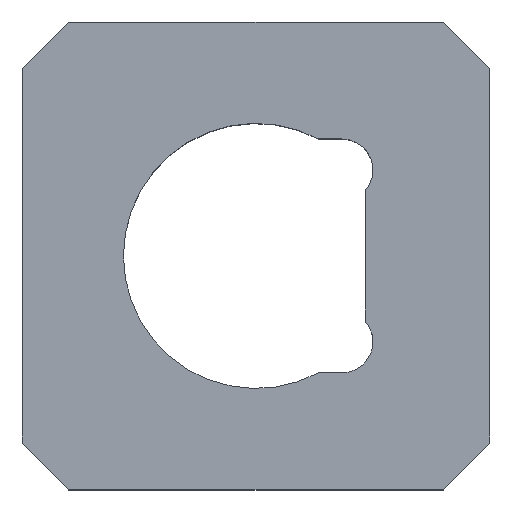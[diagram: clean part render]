
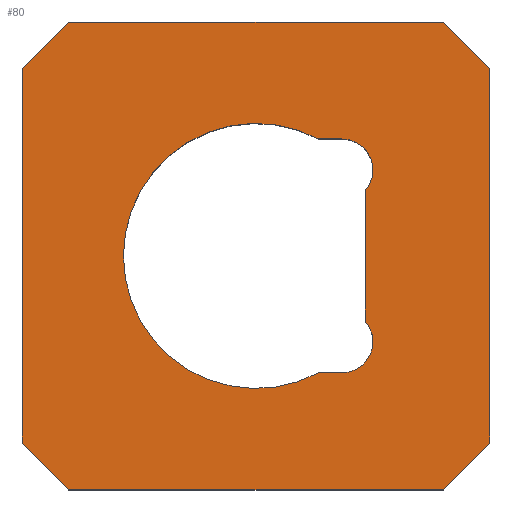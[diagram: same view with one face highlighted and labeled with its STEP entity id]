
A CAD part, top view. The second image highlights one B-rep face of the part: STEP entity #80.
In plain terms, the highlighted planar face has unit normal (0, 0, 1).
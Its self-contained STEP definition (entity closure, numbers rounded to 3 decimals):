
#80=ADVANCED_FACE('',(#332,#334),#336,.T.);
#332=FACE_BOUND('',#333,.T.);
#333=EDGE_LOOP('',(#543,#544,#545,#546,#547,#548,#549,#550));
#334=FACE_BOUND('',#335,.T.);
#335=EDGE_LOOP('',(#551,#552,#553,#554,#555,#556));
#336=PLANE('',#337);
#337=AXIS2_PLACEMENT_3D('',#338,#339,#340);
#338=CARTESIAN_POINT('',(0.,0.,11.));
#339=DIRECTION('',(0.,0.,1.));
#340=DIRECTION('',(-1.,0.,0.));
#543=ORIENTED_EDGE('',*,*,#667,.F.);
#544=ORIENTED_EDGE('',*,*,#668,.T.);
#545=ORIENTED_EDGE('',*,*,#669,.F.);
#546=ORIENTED_EDGE('',*,*,#670,.T.);
#547=ORIENTED_EDGE('',*,*,#671,.F.);
#548=ORIENTED_EDGE('',*,*,#658,.T.);
#549=ORIENTED_EDGE('',*,*,#666,.F.);
#550=ORIENTED_EDGE('',*,*,#672,.T.);
#551=ORIENTED_EDGE('',*,*,#673,.T.);
#552=ORIENTED_EDGE('',*,*,#674,.T.);
#553=ORIENTED_EDGE('',*,*,#675,.T.);
#554=ORIENTED_EDGE('',*,*,#676,.T.);
#555=ORIENTED_EDGE('',*,*,#677,.T.);
#556=ORIENTED_EDGE('',*,*,#678,.T.);
#658=EDGE_CURVE('',#723,#721,#724,.T.);
#666=EDGE_CURVE('',#736,#721,#738,.F.);
#667=EDGE_CURVE('',#739,#740,#741,.F.);
#668=EDGE_CURVE('',#739,#742,#743,.T.);
#669=EDGE_CURVE('',#744,#742,#745,.F.);
#670=EDGE_CURVE('',#744,#746,#747,.T.);
#671=EDGE_CURVE('',#723,#746,#748,.F.);
#672=EDGE_CURVE('',#736,#740,#749,.T.);
#673=EDGE_CURVE('',#750,#751,#752,.F.);
#674=EDGE_CURVE('',#751,#753,#754,.F.);
#675=EDGE_CURVE('',#753,#755,#756,.F.);
#676=EDGE_CURVE('',#755,#757,#758,.F.);
#677=EDGE_CURVE('',#757,#759,#760,.F.);
#678=EDGE_CURVE('',#759,#750,#761,.F.);
#721=VERTEX_POINT('',#830);
#723=VERTEX_POINT('',#834);
#724=LINE('',#835,#836);
#736=VERTEX_POINT('',#864);
#738=LINE('',#868,#869);
#739=VERTEX_POINT('',#871);
#740=VERTEX_POINT('',#872);
#741=LINE('',#873,#874);
#742=VERTEX_POINT('',#876);
#743=LINE('',#877,#878);
#744=VERTEX_POINT('',#880);
#745=LINE('',#881,#882);
#746=VERTEX_POINT('',#884);
#747=LINE('',#885,#886);
#748=LINE('',#888,#889);
#749=LINE('',#891,#892);
#750=VERTEX_POINT('',#894);
#751=VERTEX_POINT('',#895);
#752=CIRCLE('',#896,2.);
#753=VERTEX_POINT('',#900);
#754=LINE('',#901,#902);
#755=VERTEX_POINT('',#904);
#756=CIRCLE('',#905,8.5);
#757=VERTEX_POINT('',#909);
#758=LINE('',#910,#911);
#759=VERTEX_POINT('',#913);
#760=CIRCLE('',#914,2.);
#761=LINE('',#918,#919);
#830=CARTESIAN_POINT('',(12.,-15.,11.));
#834=CARTESIAN_POINT('',(-12.,-15.,11.));
#835=CARTESIAN_POINT('',(-12.,-15.,11.));
#836=VECTOR('',#837,1.);
#837=DIRECTION('',(1.,0.,0.));
#864=CARTESIAN_POINT('',(15.,-12.,11.));
#868=CARTESIAN_POINT('',(12.,-15.,11.));
#869=VECTOR('',#870,1.);
#870=DIRECTION('',(0.707,0.707,0.));
#871=CARTESIAN_POINT('',(12.,15.,11.));
#872=CARTESIAN_POINT('',(15.,12.,11.));
#873=CARTESIAN_POINT('',(15.,12.,11.));
#874=VECTOR('',#875,1.);
#875=DIRECTION('',(-0.707,0.707,0.));
#876=CARTESIAN_POINT('',(-12.,15.,11.));
#877=CARTESIAN_POINT('',(12.,15.,11.));
#878=VECTOR('',#879,1.);
#879=DIRECTION('',(-1.,0.,0.));
#880=CARTESIAN_POINT('',(-15.,12.,11.));
#881=CARTESIAN_POINT('',(-12.,15.,11.));
#882=VECTOR('',#883,1.);
#883=DIRECTION('',(-0.707,-0.707,0.));
#884=CARTESIAN_POINT('',(-15.,-12.,11.));
#885=CARTESIAN_POINT('',(-15.,12.,11.));
#886=VECTOR('',#887,1.);
#887=DIRECTION('',(0.,-1.,0.));
#888=CARTESIAN_POINT('',(-15.,-12.,11.));
#889=VECTOR('',#890,1.);
#890=DIRECTION('',(0.707,-0.707,0.));
#891=CARTESIAN_POINT('',(15.,-12.,11.));
#892=VECTOR('',#893,1.);
#893=DIRECTION('',(0.,1.,0.));
#894=CARTESIAN_POINT('',(7.,-4.177,11.));
#895=CARTESIAN_POINT('',(5.5,-7.5,11.));
#896=AXIS2_PLACEMENT_3D('',#897,#898,#899);
#897=CARTESIAN_POINT('',(5.5,-5.5,11.));
#898=DIRECTION('',(0.,0.,1.));
#899=DIRECTION('',(0.,-1.,0.));
#900=CARTESIAN_POINT('',(4.,-7.5,11.));
#901=CARTESIAN_POINT('',(4.,-7.5,11.));
#902=VECTOR('',#903,1.);
#903=DIRECTION('',(1.,0.,0.));
#904=CARTESIAN_POINT('',(4.,7.5,11.));
#905=AXIS2_PLACEMENT_3D('',#906,#907,#908);
#906=CARTESIAN_POINT('',(0.,0.,11.));
#907=DIRECTION('',(0.,0.,1.));
#908=DIRECTION('',(0.471,0.882,0.));
#909=CARTESIAN_POINT('',(5.5,7.5,11.));
#910=CARTESIAN_POINT('',(5.5,7.5,11.));
#911=VECTOR('',#912,1.);
#912=DIRECTION('',(-1.,0.,0.));
#913=CARTESIAN_POINT('',(7.,4.177,11.));
#914=AXIS2_PLACEMENT_3D('',#915,#916,#917);
#915=CARTESIAN_POINT('',(5.5,5.5,11.));
#916=DIRECTION('',(0.,0.,1.));
#917=DIRECTION('',(0.75,-0.661,0.));
#918=CARTESIAN_POINT('',(7.,-4.177,11.));
#919=VECTOR('',#920,1.);
#920=DIRECTION('',(0.,1.,0.));
